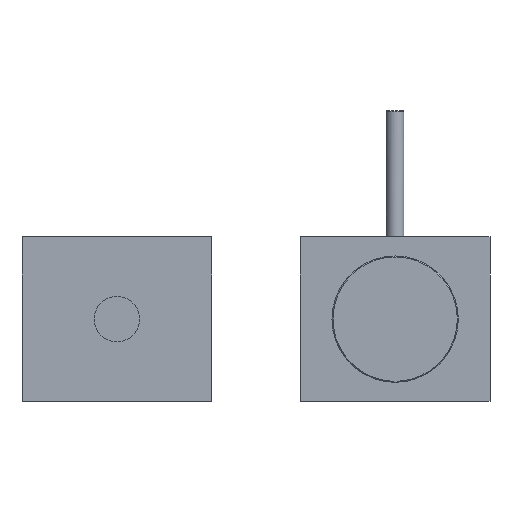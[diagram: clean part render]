
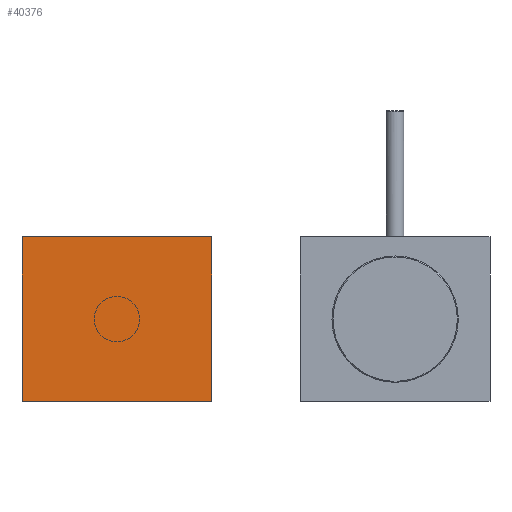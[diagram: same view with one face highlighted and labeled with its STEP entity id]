
A CAD part, front view. The second image highlights one B-rep face of the part: STEP entity #40376.
In plain terms, the highlighted planar face has unit normal (0, -1, 0).
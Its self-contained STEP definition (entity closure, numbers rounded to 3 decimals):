
#1942=DIRECTION('',(0.,0.,1.));
#1943=VECTOR('',#1942,65.);
#1944=CARTESIAN_POINT('',(-72.5,-14.,-32.5));
#1945=LINE('',#1944,#1943);
#1946=DIRECTION('',(1.,0.,0.));
#1947=VECTOR('',#1946,75.);
#1948=CARTESIAN_POINT('',(-147.5,-14.,-32.5));
#1949=LINE('',#1948,#1947);
#1950=DIRECTION('',(0.,0.,-1.));
#1951=VECTOR('',#1950,65.);
#1952=CARTESIAN_POINT('',(-147.5,-14.,32.5));
#1953=LINE('',#1952,#1951);
#1954=DIRECTION('',(-1.,0.,0.));
#1955=VECTOR('',#1954,75.);
#1956=CARTESIAN_POINT('',(-72.5,-14.,32.5));
#1957=LINE('',#1956,#1955);
#35541=CARTESIAN_POINT('',(-72.5,-14.,-32.5));
#35542=CARTESIAN_POINT('',(-72.5,-14.,32.5));
#35543=VERTEX_POINT('',#35541);
#35544=VERTEX_POINT('',#35542);
#35545=CARTESIAN_POINT('',(-147.5,-14.,32.5));
#35546=VERTEX_POINT('',#35545);
#35547=CARTESIAN_POINT('',(-147.5,-14.,-32.5));
#35548=VERTEX_POINT('',#35547);
#40365=CARTESIAN_POINT('',(-110.,-14.,0.));
#40366=DIRECTION('',(0.,-1.,0.));
#40367=DIRECTION('',(-1.,0.,0.));
#40368=AXIS2_PLACEMENT_3D('',#40365,#40366,#40367);
#40369=PLANE('',#40368);
#40370=ORIENTED_EDGE('',*,*,#40317,.F.);
#40371=ORIENTED_EDGE('',*,*,#40332,.F.);
#40372=ORIENTED_EDGE('',*,*,#40346,.F.);
#40373=ORIENTED_EDGE('',*,*,#40359,.F.);
#40374=EDGE_LOOP('',(#40370,#40371,#40372,#40373));
#40375=FACE_OUTER_BOUND('',#40374,.F.);
#40376=ADVANCED_FACE('',(#40375),#40369,.T.);
#40317=EDGE_CURVE('',#35543,#35544,#1945,.T.);
#40332=EDGE_CURVE('',#35548,#35543,#1949,.T.);
#40346=EDGE_CURVE('',#35546,#35548,#1953,.T.);
#40359=EDGE_CURVE('',#35544,#35546,#1957,.T.);
